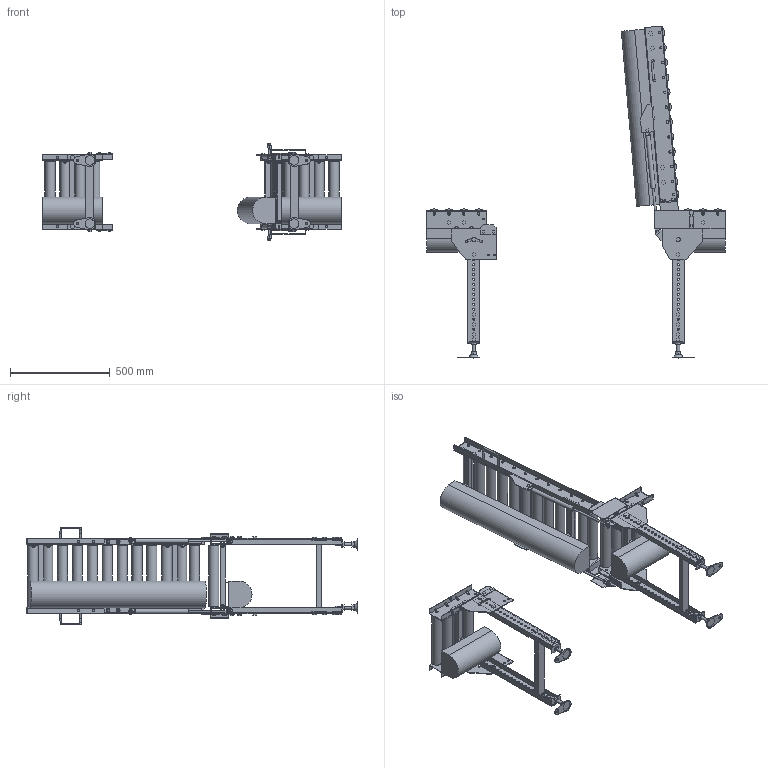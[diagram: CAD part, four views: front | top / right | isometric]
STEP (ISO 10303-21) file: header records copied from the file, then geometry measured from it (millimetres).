
FILE_DESCRIPTION( (''), '2;1');
FILE_NAME ('WEB-MCD50-315-75-90-R-HU.stp','2025-07-01T15:59:36',(''),(''),'spGate 20.6.2 (****-****-****-****)','','');
FILE_SCHEMA (('AUTOMOTIVE_DESIGN'));
Length unit declared in the file: millimetre
Products named in the file (26): WEB-MCD50-315-75-90-R-HU; TEMP_X_T-prt0; TEMP_X_T-prt1; TEMP_X_T-prt2; TEMP_X_T-prt3; TEMP_X_T-prt4; TEMP_X_T-prt5; TEMP_X_T-prt6; TEMP_X_T-prt7; TEMP_X_T-prt8; TEMP_X_T-prt9; TEMP_X_T-prt10; TEMP_X_T-prt11; TEMP_X_T-prt12; TEMP_X_T-prt13; TEMP_X_T-prt14; TEMP_X_T-prt15; TEMP_X_T-prt16; TEMP_X_T-prt17; TEMP_X_T-prt18; TEMP_X_T-prt19; TEMP_X_T-prt20; TEMP_X_T-prt21; TEMP_X_T-prt22; TEMP_X_T-prt23; TEMP_X_T-prt24
Assembly tree (25 placements, depth 2):
  WEB-MCD50-315-75-90-R-HU
    TEMP_X_T-prt0
    TEMP_X_T-prt1
    TEMP_X_T-prt2
    TEMP_X_T-prt3
    TEMP_X_T-prt4
    TEMP_X_T-prt5
    TEMP_X_T-prt6
    TEMP_X_T-prt7
    TEMP_X_T-prt8
    TEMP_X_T-prt9
    TEMP_X_T-prt10
    TEMP_X_T-prt11
    TEMP_X_T-prt12
    TEMP_X_T-prt13
    TEMP_X_T-prt14
    TEMP_X_T-prt15
    TEMP_X_T-prt16
    TEMP_X_T-prt17
    TEMP_X_T-prt18
    TEMP_X_T-prt19
    TEMP_X_T-prt20
    TEMP_X_T-prt21
    TEMP_X_T-prt22
    TEMP_X_T-prt23
    TEMP_X_T-prt24
Bounding box: 1500 x 1665.85 x 491.39 mm (x, y, z)
Volume: 38076104.4 mm3; surface area: 4042728.1 mm2
Topology: 25 solids, 51 shells, 2618 faces, 6642 edges, 4375 vertices
Faces by surface type: plane 2139, cylinder 461, bspline 18
Full cylindrical faces by diameter (mm): 8 x8, 8.5 x8, 9 x20, 10 x58, 10.5 x96, 11 x8, 12 x42, 13 x12, 14 x4, 15 x6, 15.4 x2, 15.7 x2, 16 x10, 17 x4, 18 x6, 18.4 x28, 18.5 x8, 21 x12, 22 x2, 50.8 x20
Entity records: 134520 total; most frequent: CARTESIAN_POINT 15149, DIRECTION 13436, ORIENTED_EDGE 13284, COLOUR_RGB 9285, PRESENTATION_STYLE_ASSIGNMENT 9285, STYLED_ITEM 9285, EDGE_CURVE 6642, DRAUGHTING_PRE_DEFINED_CURVE_FONT 6642
